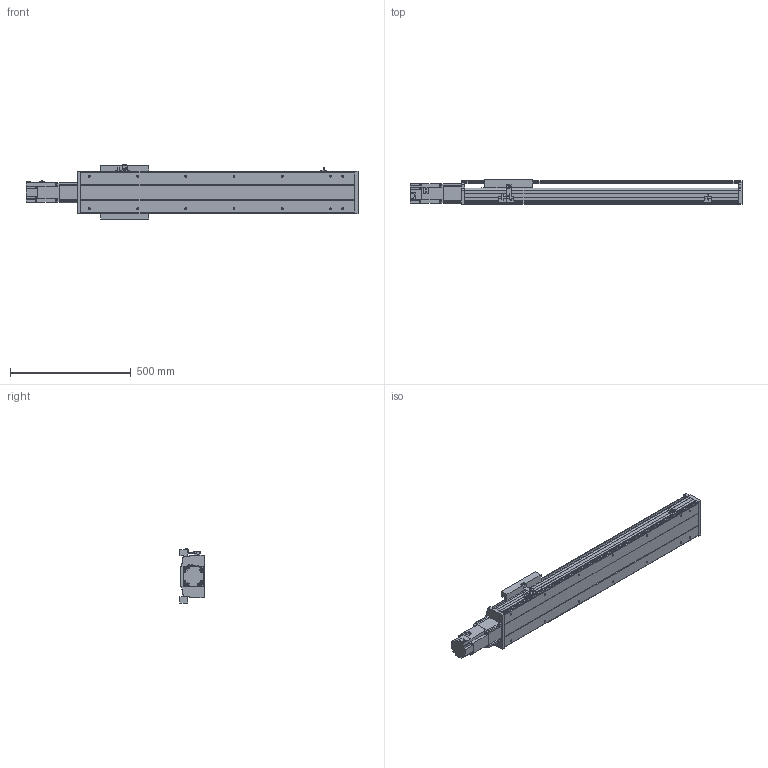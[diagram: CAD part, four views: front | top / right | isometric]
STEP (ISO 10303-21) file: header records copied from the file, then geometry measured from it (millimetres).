
FILE_DESCRIPTION(/* description */ ('STEP AP214'),/* implementation_level */ '2;1');
FILE_NAME(/* name */ 'PSS200-L10-S800-BC-T75-C1-N(0)',/* time_stamp */ '2022-06-06T04:34:21+02:00',/* author */ ('License CC BY-ND 4.0'),/* organization */ ('CADENAS'),/* preprocessor_version */ 'ST-DEVELOPER v18.102',/* originating_system */ 'PARTsolutions',/* authorisation */ ' ');
FILE_SCHEMA (('AUTOMOTIVE_DESIGN {1 0 10303 214 3 1 1}'));
Length unit declared in the file: millimetre
Products named in the file (8): PSS200-L10-S800-BC-T75-C1-N(0); PSS200-S800-BC-N_S; T75-p1; PSS200BC-N_h; PSS200-N_sensor; PSS200-BC-C1-N_sl; PSS200-N_Q; PSS200-S800-BC-C1-N_body
Assembly tree (9 placements, depth 2):
  PSS200-L10-S800-BC-T75-C1-N(0)
    PSS200-S800-BC-N_S
    T75-p1
    PSS200BC-N_h
    PSS200-N_sensor  x3
    PSS200-BC-C1-N_sl
    PSS200-N_Q
    PSS200-S800-BC-C1-N_body
Bounding box: 1376.3 x 101.5 x 223.86 mm (x, y, z)
Volume: 7707945.8 mm3; surface area: 1927994.9 mm2
Topology: 9 solids, 9 shells, 581 faces, 1555 edges, 1032 vertices
Faces by surface type: plane 439, cylinder 120, cone 22
Full cylindrical faces by diameter (mm): 4 x2, 4.5 x4, 6 x11, 6.647 x18, 8 x8, 10 x6, 25 x1, 67 x1, 70 x1
Entity records: 16166 total; most frequent: CARTESIAN_POINT 2796, DIRECTION 2661, ORIENTED_EDGE 2642, EDGE_CURVE 1321, LINE 1051, VECTOR 1051, VERTEX_POINT 920, AXIS2_PLACEMENT_3D 805
